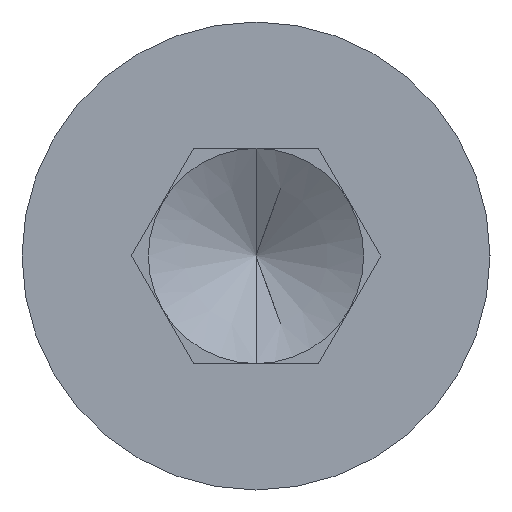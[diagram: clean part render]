
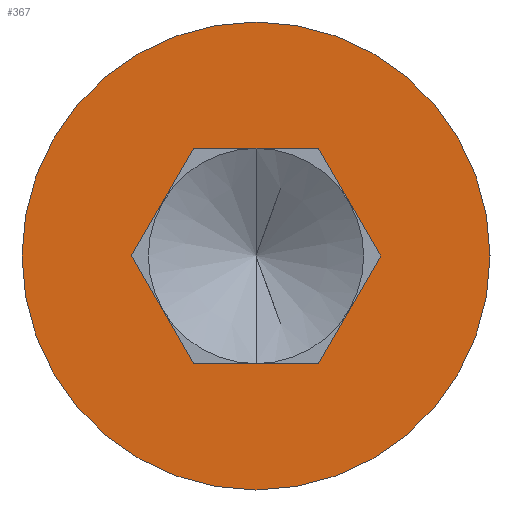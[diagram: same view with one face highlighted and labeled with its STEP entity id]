
A CAD part, left-side view. The second image highlights one B-rep face of the part: STEP entity #367.
In plain terms, the highlighted planar face has unit normal (-1, 0, 0).
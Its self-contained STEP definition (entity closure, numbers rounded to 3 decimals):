
#14 = CARTESIAN_POINT ( 'NONE',  ( -8., -3.464, 0. ) ) ;
#25 = CARTESIAN_POINT ( 'NONE',  ( -8., 3.25, 0. ) ) ;
#28 = DIRECTION ( 'NONE',  ( 1., 0., 0. ) ) ;
#33 = CARTESIAN_POINT ( 'NONE',  ( -8., 0., 6.5 ) ) ;
#48 = EDGE_CURVE ( 'NONE', #768, #248, #780, .T. ) ;
#64 = LINE ( 'NONE', #596, #705 ) ;
#76 = ORIENTED_EDGE ( 'NONE', *, *, #115, .F. ) ;
#85 = LINE ( 'NONE', #519, #245 ) ;
#87 = DIRECTION ( 'NONE',  ( 0., 0., 1. ) ) ;
#92 = VERTEX_POINT ( 'NONE', #750 ) ;
#93 = EDGE_CURVE ( 'NONE', #92, #185, #213, .T. ) ;
#102 = EDGE_LOOP ( 'NONE', ( #325, #76 ) ) ;
#115 = EDGE_CURVE ( 'NONE', #417, #217, #534, .T. ) ;
#145 = ORIENTED_EDGE ( 'NONE', *, *, #512, .T. ) ;
#154 = CARTESIAN_POINT ( 'NONE',  ( -8., -1.732, -3. ) ) ;
#161 = VECTOR ( 'NONE', #477, 1000. ) ;
#163 = AXIS2_PLACEMENT_3D ( 'NONE', #25, #465, #87 ) ;
#182 = DIRECTION ( 'NONE',  ( 1., 0., 0. ) ) ;
#185 = VERTEX_POINT ( 'NONE', #464 ) ;
#195 = CARTESIAN_POINT ( 'NONE',  ( -8., -1.732, 3. ) ) ;
#198 = DIRECTION ( 'NONE',  ( 0., -1., 0. ) ) ;
#213 = LINE ( 'NONE', #752, #693 ) ;
#217 = VERTEX_POINT ( 'NONE', #33 ) ;
#242 = ORIENTED_EDGE ( 'NONE', *, *, #93, .T. ) ;
#245 = VECTOR ( 'NONE', #198, 1000. ) ;
#248 = VERTEX_POINT ( 'NONE', #154 ) ;
#264 = VECTOR ( 'NONE', #291, 1000. ) ;
#279 = CARTESIAN_POINT ( 'NONE',  ( -8., 1.732, -3. ) ) ;
#291 = DIRECTION ( 'NONE',  ( 0., 1., 0. ) ) ;
#295 = EDGE_CURVE ( 'NONE', #248, #641, #433, .T. ) ;
#298 = PLANE ( 'NONE',  #163 ) ;
#308 = ORIENTED_EDGE ( 'NONE', *, *, #295, .T. ) ;
#323 = LINE ( 'NONE', #279, #161 ) ;
#325 = ORIENTED_EDGE ( 'NONE', *, *, #548, .F. ) ;
#347 = CARTESIAN_POINT ( 'NONE',  ( -8., 0., -6.5 ) ) ;
#367 = ADVANCED_FACE ( 'NONE', ( #469, #773 ), #298, .T. ) ;
#401 = CARTESIAN_POINT ( 'NONE',  ( -8., 0., 0. ) ) ;
#406 = CARTESIAN_POINT ( 'NONE',  ( -8., 3.25, -3. ) ) ;
#407 = DIRECTION ( 'NONE',  ( 0., -0.5, -0.866 ) ) ;
#409 = AXIS2_PLACEMENT_3D ( 'NONE', #401, #28, #466 ) ;
#417 = VERTEX_POINT ( 'NONE', #347 ) ;
#424 = EDGE_CURVE ( 'NONE', #641, #92, #323, .T. ) ;
#433 = LINE ( 'NONE', #406, #264 ) ;
#438 = DIRECTION ( 'NONE',  ( 0., -0.5, 0.866 ) ) ;
#439 = EDGE_LOOP ( 'NONE', ( #308, #666, #242, #704, #145, #676 ) ) ;
#447 = CARTESIAN_POINT ( 'NONE',  ( -8., 1.732, -3. ) ) ;
#450 = DIRECTION ( 'NONE',  ( 0., 0.5, -0.866 ) ) ;
#464 = CARTESIAN_POINT ( 'NONE',  ( -8., 1.732, 3. ) ) ;
#465 = DIRECTION ( 'NONE',  ( -1., 0., 0. ) ) ;
#466 = DIRECTION ( 'NONE',  ( 0., 0., 1. ) ) ;
#469 = FACE_BOUND ( 'NONE', #439, .T. ) ;
#471 = EDGE_CURVE ( 'NONE', #185, #727, #85, .T. ) ;
#477 = DIRECTION ( 'NONE',  ( 0., 0.5, 0.866 ) ) ;
#512 = EDGE_CURVE ( 'NONE', #727, #768, #64, .T. ) ;
#517 = CARTESIAN_POINT ( 'NONE',  ( -8., -3.464, 0. ) ) ;
#519 = CARTESIAN_POINT ( 'NONE',  ( -8., 3.25, 3. ) ) ;
#534 = CIRCLE ( 'NONE', #409, 6.5 ) ;
#539 = AXIS2_PLACEMENT_3D ( 'NONE', #558, #182, #620 ) ;
#548 = EDGE_CURVE ( 'NONE', #217, #417, #775, .T. ) ;
#558 = CARTESIAN_POINT ( 'NONE',  ( -8., 0., 0. ) ) ;
#596 = CARTESIAN_POINT ( 'NONE',  ( -8., -1.732, 3. ) ) ;
#616 = VECTOR ( 'NONE', #450, 1000. ) ;
#620 = DIRECTION ( 'NONE',  ( 0., 0., 1. ) ) ;
#641 = VERTEX_POINT ( 'NONE', #447 ) ;
#666 = ORIENTED_EDGE ( 'NONE', *, *, #424, .T. ) ;
#676 = ORIENTED_EDGE ( 'NONE', *, *, #48, .T. ) ;
#693 = VECTOR ( 'NONE', #438, 1000. ) ;
#704 = ORIENTED_EDGE ( 'NONE', *, *, #471, .T. ) ;
#705 = VECTOR ( 'NONE', #407, 1000. ) ;
#727 = VERTEX_POINT ( 'NONE', #195 ) ;
#750 = CARTESIAN_POINT ( 'NONE',  ( -8., 3.464, 0. ) ) ;
#752 = CARTESIAN_POINT ( 'NONE',  ( -8., 3.464, 0. ) ) ;
#768 = VERTEX_POINT ( 'NONE', #517 ) ;
#773 = FACE_OUTER_BOUND ( 'NONE', #102, .T. ) ;
#775 = CIRCLE ( 'NONE', #539, 6.5 ) ;
#780 = LINE ( 'NONE', #14, #616 ) ;
